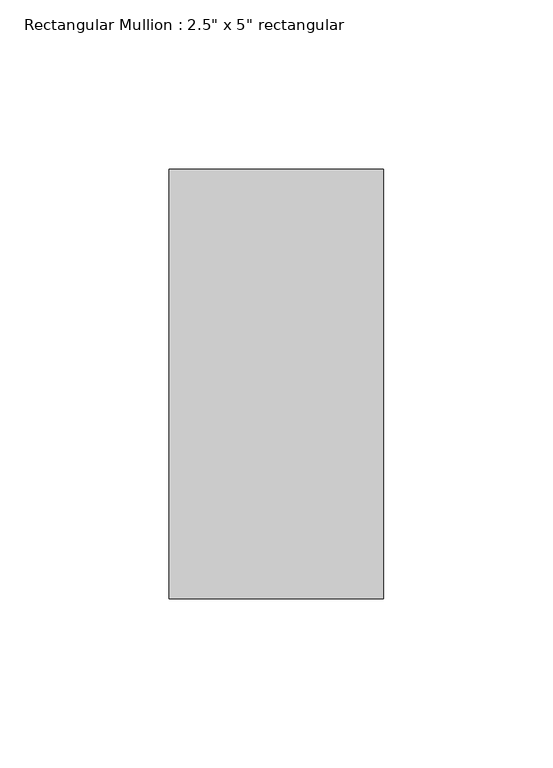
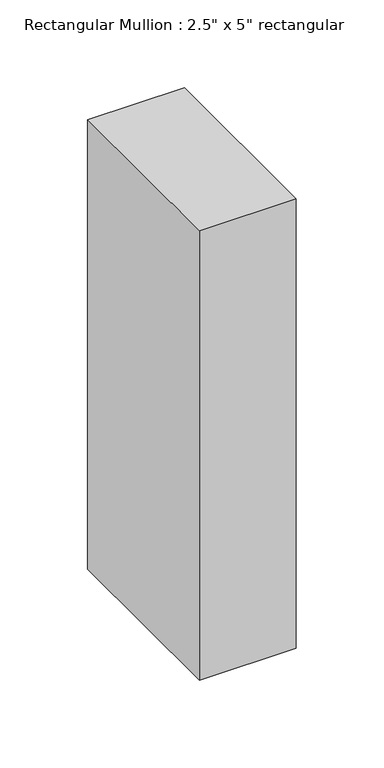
"""IFC4 building model written with IfcOpenShell, lengths in millimetres: member geometry."""

from ifc_helpers import new_model, si_unit, frame, origin, place, context, project, spatial, polyline, outline, extrude, source, transform, mapped, element, save


def member_7c0f4a23(model_context):
    return source(origin(), model_context, "Body", "SweptSolid", [
        extrude(outline(polyline([(31.75, 63.5), (31.75, -63.5), (-31.75, -63.5), (-31.75, 63.5), (31.75, 63.5)])), frame((0.0, 0.0, -311.94375), z_axis=(0.0, 0.0, 1.0), x_axis=(1.0, 0.0, 0.0)), (0.0, 0.0, 1.0), 311.94375),
    ])


if __name__ == "__main__":
    model = new_model("IFC4")
    model_context = context("Model", 3, world=origin())
    ifc_project = project(units=[si_unit("LENGTHUNIT", "METRE", prefix="MILLI")], contexts=[model_context])
    site = spatial("IfcSite", under=ifc_project)
    building = spatial("IfcBuilding", under=site)
    placement = place(None, origin())
    member_shape = member_7c0f4a23(model_context)
    element("IfcMember", 1, ObjectType="Rectangular Mullion : 2.5\" x 5\" rectangular", at=placement, inside=building, context=model_context, shape_type="MappedRepresentation", body=[
        mapped(member_shape, transform((0.0, 0.0, 0.0), x_axis=(1.0, 0.0, 0.0), y_axis=(0.0, 1.0, 0.0), z_axis=(0.0, 0.0, 1.0))),
    ])
    save(model, "model.ifc")
